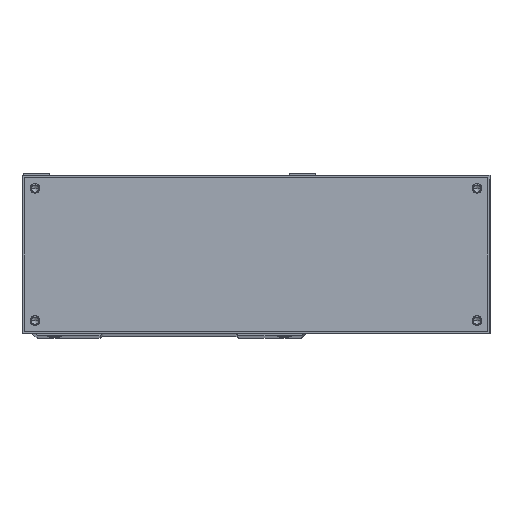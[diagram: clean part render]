
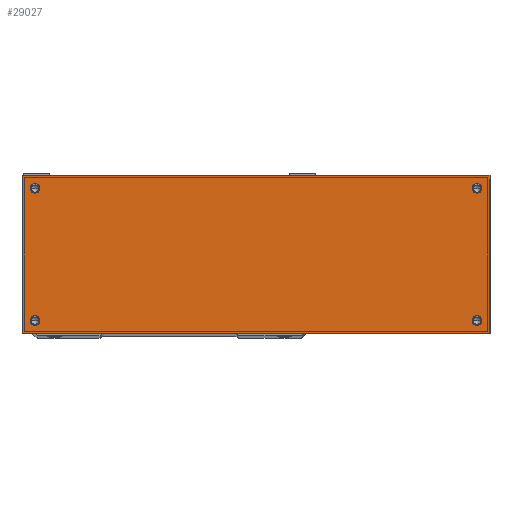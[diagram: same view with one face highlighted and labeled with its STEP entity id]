
A CAD part, top view. The second image highlights one B-rep face of the part: STEP entity #29027.
In plain terms, the highlighted planar face has unit normal (0, 0, 1).
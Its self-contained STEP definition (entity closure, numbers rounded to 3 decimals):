
#357 = AXIS2_PLACEMENT_3D ( 'NONE', #1498, #1468, #1441 ) ;
#434 = DIRECTION ( 'NONE',  ( 1., 0., 0. ) ) ;
#702 = AXIS2_PLACEMENT_3D ( 'NONE', #1887, #8792, #18699 ) ;
#1175 = DIRECTION ( 'NONE',  ( 1., 0., 0. ) ) ;
#1441 = DIRECTION ( 'NONE',  ( 1., 0., 0. ) ) ;
#1468 = DIRECTION ( 'NONE',  ( 0., 0., 1. ) ) ;
#1498 = CARTESIAN_POINT ( 'NONE',  ( 142., 67., 193. ) ) ;
#1692 = FACE_BOUND ( 'NONE', #17362, .T. ) ;
#1887 = CARTESIAN_POINT ( 'NONE',  ( -62., 6., 193. ) ) ;
#2025 = AXIS2_PLACEMENT_3D ( 'NONE', #12601, #34274, #17622 ) ;
#3019 = VERTEX_POINT ( 'NONE', #24915 ) ;
#3179 = EDGE_CURVE ( 'NONE', #28001, #20164, #30324, .T. ) ;
#3536 = ORIENTED_EDGE ( 'NONE', *, *, #10500, .F. ) ;
#3674 = LINE ( 'NONE', #25433, #20201 ) ;
#3738 = EDGE_CURVE ( 'NONE', #14552, #3019, #8961, .T. ) ;
#4829 = CARTESIAN_POINT ( 'NONE',  ( 40., 36.5, 193. ) ) ;
#5606 = CARTESIAN_POINT ( 'NONE',  ( 139.75, 67., 193. ) ) ;
#6370 = DIRECTION ( 'NONE',  ( 1., 0., 0. ) ) ;
#6866 = CARTESIAN_POINT ( 'NONE',  ( -68., 73., 193. ) ) ;
#7163 = VERTEX_POINT ( 'NONE', #30198 ) ;
#7199 = AXIS2_PLACEMENT_3D ( 'NONE', #34675, #18002, #1175 ) ;
#7323 = VERTEX_POINT ( 'NONE', #25636 ) ;
#7708 = CIRCLE ( 'NONE', #702, 2.25 ) ;
#8265 = CARTESIAN_POINT ( 'NONE',  ( 144.25, 6., 193. ) ) ;
#8350 = ORIENTED_EDGE ( 'NONE', *, *, #3179, .F. ) ;
#8422 = DIRECTION ( 'NONE',  ( 1., 0., 0. ) ) ;
#8669 = DIRECTION ( 'NONE',  ( 0., -1., 0. ) ) ;
#8792 = DIRECTION ( 'NONE',  ( 0., 0., 1. ) ) ;
#8825 = EDGE_CURVE ( 'NONE', #26720, #7323, #20968, .T. ) ;
#8961 = CIRCLE ( 'NONE', #2025, 2.25 ) ;
#9616 = CARTESIAN_POINT ( 'NONE',  ( -59.75, 67., 193. ) ) ;
#9689 = EDGE_CURVE ( 'NONE', #20164, #28001, #19337, .T. ) ;
#9811 = DIRECTION ( 'NONE',  ( -1., 0., 0. ) ) ;
#10494 = ORIENTED_EDGE ( 'NONE', *, *, #34553, .T. ) ;
#10500 = EDGE_CURVE ( 'NONE', #21736, #37174, #30307, .T. ) ;
#10771 = AXIS2_PLACEMENT_3D ( 'NONE', #21529, #25296, #18471 ) ;
#11070 = DIRECTION ( 'NONE',  ( 0., 1., 0. ) ) ;
#11272 = CARTESIAN_POINT ( 'NONE',  ( -62., 6., 193. ) ) ;
#12420 = AXIS2_PLACEMENT_3D ( 'NONE', #34048, #25150, #8422 ) ;
#12536 = CIRCLE ( 'NONE', #7199, 2.25 ) ;
#12601 = CARTESIAN_POINT ( 'NONE',  ( 142., 67., 193. ) ) ;
#13324 = CARTESIAN_POINT ( 'NONE',  ( -64.25, 67., 193. ) ) ;
#13365 = CARTESIAN_POINT ( 'NONE',  ( -59.75, 6., 193. ) ) ;
#13391 = EDGE_CURVE ( 'NONE', #7163, #26521, #3674, .T. ) ;
#13615 = EDGE_LOOP ( 'NONE', ( #27887, #36198 ) ) ;
#13638 = EDGE_LOOP ( 'NONE', ( #8350, #37568 ) ) ;
#14486 = VERTEX_POINT ( 'NONE', #16519 ) ;
#14552 = VERTEX_POINT ( 'NONE', #5606 ) ;
#15869 = CIRCLE ( 'NONE', #357, 2.25 ) ;
#16008 = CARTESIAN_POINT ( 'NONE',  ( 148., 0., 193. ) ) ;
#16352 = VECTOR ( 'NONE', #434, 1000. ) ;
#16519 = CARTESIAN_POINT ( 'NONE',  ( 139.75, 6., 193. ) ) ;
#17362 = EDGE_LOOP ( 'NONE', ( #37397, #3536 ) ) ;
#17622 = DIRECTION ( 'NONE',  ( 1., 0., 0. ) ) ;
#18002 = DIRECTION ( 'NONE',  ( 0., 0., 1. ) ) ;
#18257 = CARTESIAN_POINT ( 'NONE',  ( -68., 0., 193. ) ) ;
#18471 = DIRECTION ( 'NONE',  ( 1., 0., 0. ) ) ;
#18699 = DIRECTION ( 'NONE',  ( 1., 0., 0. ) ) ;
#19215 = EDGE_LOOP ( 'NONE', ( #10494, #35548, #36366, #38350 ) ) ;
#19228 = EDGE_CURVE ( 'NONE', #37174, #21736, #7708, .T. ) ;
#19310 = EDGE_CURVE ( 'NONE', #26521, #26720, #37002, .T. ) ;
#19337 = CIRCLE ( 'NONE', #12420, 2.25 ) ;
#20164 = VERTEX_POINT ( 'NONE', #13324 ) ;
#20201 = VECTOR ( 'NONE', #8669, 1000. ) ;
#20331 = FACE_OUTER_BOUND ( 'NONE', #19215, .T. ) ;
#20968 = LINE ( 'NONE', #16008, #23217 ) ;
#21529 = CARTESIAN_POINT ( 'NONE',  ( 142., 6., 193. ) ) ;
#21553 = PLANE ( 'NONE',  #27443 ) ;
#21736 = VERTEX_POINT ( 'NONE', #29990 ) ;
#22519 = EDGE_CURVE ( 'NONE', #14486, #32026, #25483, .T. ) ;
#23217 = VECTOR ( 'NONE', #11070, 1000. ) ;
#23488 = AXIS2_PLACEMENT_3D ( 'NONE', #11272, #27997, #6370 ) ;
#23501 = AXIS2_PLACEMENT_3D ( 'NONE', #36124, #36151, #36179 ) ;
#23577 = LINE ( 'NONE', #6866, #35552 ) ;
#23892 = CARTESIAN_POINT ( 'NONE',  ( 148., 0., 193. ) ) ;
#24628 = EDGE_CURVE ( 'NONE', #32026, #14486, #12536, .T. ) ;
#24915 = CARTESIAN_POINT ( 'NONE',  ( 144.25, 67., 193. ) ) ;
#25150 = DIRECTION ( 'NONE',  ( 0., 0., 1. ) ) ;
#25296 = DIRECTION ( 'NONE',  ( 0., 0., 1. ) ) ;
#25328 = FACE_BOUND ( 'NONE', #13638, .T. ) ;
#25433 = CARTESIAN_POINT ( 'NONE',  ( -68., 0., 193. ) ) ;
#25483 = CIRCLE ( 'NONE', #10771, 2.25 ) ;
#25636 = CARTESIAN_POINT ( 'NONE',  ( 148., 73., 193. ) ) ;
#26521 = VERTEX_POINT ( 'NONE', #18257 ) ;
#26561 = DIRECTION ( 'NONE',  ( 0., 0., -1. ) ) ;
#26720 = VERTEX_POINT ( 'NONE', #23892 ) ;
#27443 = AXIS2_PLACEMENT_3D ( 'NONE', #4829, #26561, #9811 ) ;
#27887 = ORIENTED_EDGE ( 'NONE', *, *, #28436, .F. ) ;
#27997 = DIRECTION ( 'NONE',  ( 0., 0., 1. ) ) ;
#28001 = VERTEX_POINT ( 'NONE', #9616 ) ;
#28436 = EDGE_CURVE ( 'NONE', #3019, #14552, #15869, .T. ) ;
#28495 = DIRECTION ( 'NONE',  ( -1., 0., 0. ) ) ;
#28946 = ORIENTED_EDGE ( 'NONE', *, *, #24628, .F. ) ;
#28993 = CARTESIAN_POINT ( 'NONE',  ( -68., 0., 193. ) ) ;
#29027 = ADVANCED_FACE ( 'NONE', ( #20331, #25328, #30227, #35199, #1692 ), #21553, .F. ) ;
#29102 = ORIENTED_EDGE ( 'NONE', *, *, #22519, .F. ) ;
#29990 = CARTESIAN_POINT ( 'NONE',  ( -64.25, 6., 193. ) ) ;
#30198 = CARTESIAN_POINT ( 'NONE',  ( -68., 73., 193. ) ) ;
#30227 = FACE_BOUND ( 'NONE', #13615, .T. ) ;
#30307 = CIRCLE ( 'NONE', #23488, 2.25 ) ;
#30324 = CIRCLE ( 'NONE', #23501, 2.25 ) ;
#32026 = VERTEX_POINT ( 'NONE', #8265 ) ;
#32845 = EDGE_LOOP ( 'NONE', ( #28946, #29102 ) ) ;
#34048 = CARTESIAN_POINT ( 'NONE',  ( -62., 67., 193. ) ) ;
#34274 = DIRECTION ( 'NONE',  ( 0., 0., 1. ) ) ;
#34553 = EDGE_CURVE ( 'NONE', #7323, #7163, #23577, .T. ) ;
#34675 = CARTESIAN_POINT ( 'NONE',  ( 142., 6., 193. ) ) ;
#35199 = FACE_BOUND ( 'NONE', #32845, .T. ) ;
#35548 = ORIENTED_EDGE ( 'NONE', *, *, #13391, .T. ) ;
#35552 = VECTOR ( 'NONE', #28495, 1000. ) ;
#36124 = CARTESIAN_POINT ( 'NONE',  ( -62., 67., 193. ) ) ;
#36151 = DIRECTION ( 'NONE',  ( 0., 0., 1. ) ) ;
#36179 = DIRECTION ( 'NONE',  ( 1., 0., 0. ) ) ;
#36198 = ORIENTED_EDGE ( 'NONE', *, *, #3738, .F. ) ;
#36366 = ORIENTED_EDGE ( 'NONE', *, *, #19310, .T. ) ;
#37002 = LINE ( 'NONE', #28993, #16352 ) ;
#37174 = VERTEX_POINT ( 'NONE', #13365 ) ;
#37397 = ORIENTED_EDGE ( 'NONE', *, *, #19228, .F. ) ;
#37568 = ORIENTED_EDGE ( 'NONE', *, *, #9689, .F. ) ;
#38350 = ORIENTED_EDGE ( 'NONE', *, *, #8825, .T. ) ;
